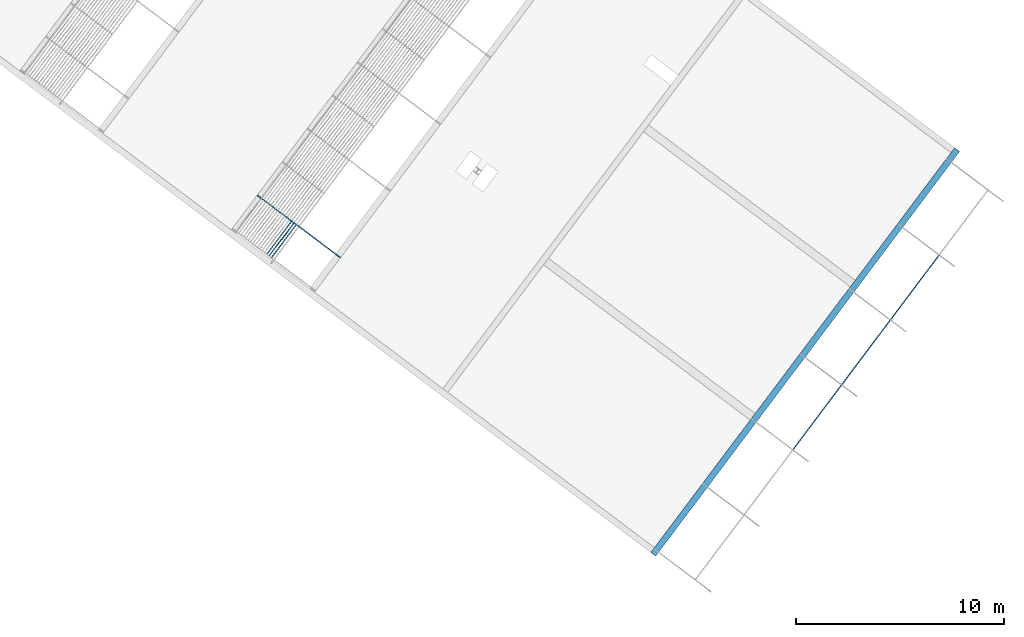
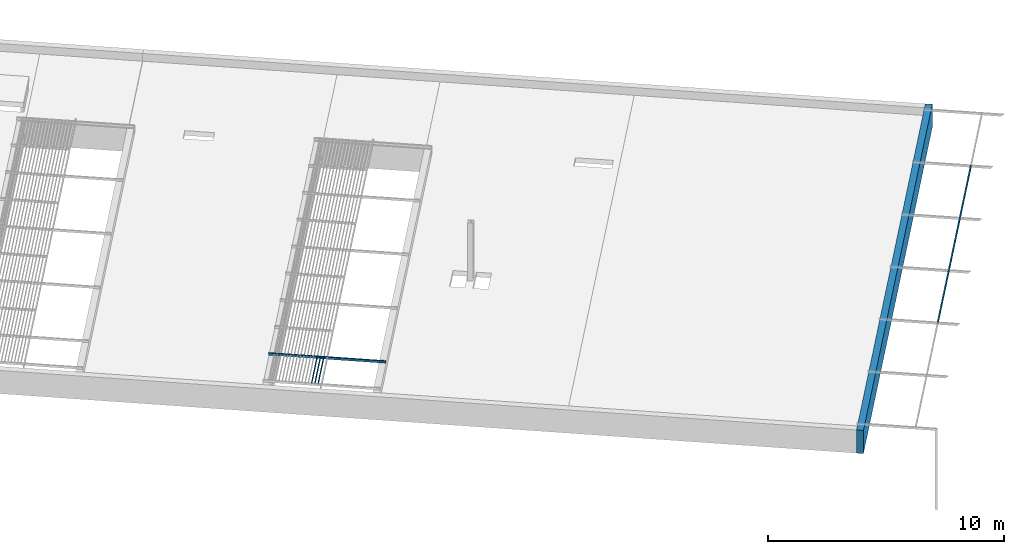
# One storey, part 17 of 95: 8 beams.
"""IFC2X3 building model written with IfcOpenShell, lengths in metres."""

import ifcopenshell
import ifcopenshell.guid

model = None  # the IFC model being written
_history = None  # IfcOwnerHistory: only IFC2X3 demands one
_inside = {}  # id of a spatial element -> (the spatial element, [elements in it])
_under = {}  # id of a project, library or spatial element -> (it, [spatial elements below it])
_declared = {}  # id of a project -> (the project, [libraries it declares])
_typed = {}  # id of a type object -> (the type object, [elements of that type])
_made_of = {}  # id of a material, layer set ... -> (it, [elements and type objects made of it])


def new_model(schema):
    """Start an empty IFC model of exactly this schema.

    Asked for "IFC4X3", IfcOpenShell would pick the latest addendum, in which some entities
    have other attributes; the version numbers below select the first issue.
    IFC2X3 requires an IfcOwnerHistory on every rooted entity: one is made here for all.
    """
    global model, _history
    if schema == "IFC4X3":
        model = ifcopenshell.file(schema_version=(4, 3, 0, 0))
    else:
        model = ifcopenshell.file(schema=schema)
    _inside.clear()
    _under.clear()
    _declared.clear()
    _typed.clear()
    _made_of.clear()
    _history = None
    if model.schema == "IFC2X3":
        org = make("IfcOrganization", Name="unknown")
        user = make(
            "IfcPersonAndOrganization",
            ThePerson=make("IfcPerson", FamilyName="unknown"),
            TheOrganization=org,
        )
        app = make(
            "IfcApplication",
            ApplicationDeveloper=org,
            Version="unknown",
            ApplicationFullName="unknown",
            ApplicationIdentifier="unknown",
        )
        _history = make(
            "IfcOwnerHistory",
            OwningUser=user,
            OwningApplication=app,
            ChangeAction="ADDED",
            CreationDate=0,
        )
    return model


def make(cls, **values):
    """One entity of the class cls with the attributes given. An attribute that is None is left unset."""
    return model.create_entity(
        cls, **{name: value for name, value in values.items() if value is not None}
    )


def entity(cls, *values):
    """Any entity or typed value of the class cls, its attributes in the order of the schema. None: left unset."""
    e = model.create_entity(cls)
    for i, value in enumerate(values):
        if value is not None:
            e[i] = value
    return e


def rooted(cls, **values):
    """An entity with a GlobalId (a new one), such as an element, a storey or a relation."""
    return make(cls, GlobalId=ifcopenshell.guid.new(), OwnerHistory=_history, **values)


def si_unit(unit_type, name, prefix=None):
    """IfcSIUnit, for example si_unit("LENGTHUNIT", "METRE", prefix="MILLI")."""
    return make("IfcSIUnit", UnitType=unit_type, Prefix=prefix, Name=name)


def converted_unit(unit_type, name, factor, base, dimensions=None, offset=None):
    """IfcConversionBasedUnit, such as the inch: factor (a typed value) times the base unit."""
    return make(
        "IfcConversionBasedUnit"
        if offset is None
        else "IfcConversionBasedUnitWithOffset",
        ConversionOffset=offset,
        Dimensions=None
        if dimensions is None
        else entity("IfcDimensionalExponents", *dimensions),
        UnitType=unit_type,
        Name=name,
        ConversionFactor=make(
            "IfcMeasureWithUnit", ValueComponent=factor, UnitComponent=base
        ),
    )


def derived_unit(unit_type, elements):
    """IfcDerivedUnit: a product of units, each with its exponent."""
    return make(
        "IfcDerivedUnit",
        Elements=[
            make("IfcDerivedUnitElement", Unit=unit, Exponent=power)
            for unit, power in elements
        ],
        UnitType=unit_type,
    )


def assignment(units):
    """IfcUnitAssignment: the units of a project."""
    return None if units is None else make("IfcUnitAssignment", Units=units)


def point(xyz):
    """IfcCartesianPoint."""
    return None if xyz is None else make("IfcCartesianPoint", Coordinates=xyz)


def direction(xyz):
    """IfcDirection."""
    return None if xyz is None else make("IfcDirection", DirectionRatios=xyz)


def frame(location, z_axis=None, x_axis=None):
    """IfcAxis2Placement3D, a coordinate frame: its origin and axes. An axis left out is left unset."""
    return make(
        "IfcAxis2Placement3D",
        Location=point(location),
        Axis=direction(z_axis),
        RefDirection=direction(x_axis),
    )


def frame_2d(location, x_axis=None):
    """IfcAxis2Placement2D, a coordinate frame in the plane: its origin and x axis."""
    return make(
        "IfcAxis2Placement2D", Location=point(location), RefDirection=direction(x_axis)
    )


def origin():
    """The frame at (0, 0, 0) with its axes left unset."""
    return frame((0.0, 0.0, 0.0))


def origin_2d_with_axis():
    """The frame at (0, 0) in the plane with the x axis (1, 0) written out."""
    return frame_2d((0.0, 0.0), x_axis=(1.0, 0.0))


def place(relative_to, where):
    """IfcLocalPlacement: puts the frame where relative to a parent placement (None: the world)."""
    return make(
        "IfcLocalPlacement", PlacementRelTo=relative_to, RelativePlacement=where
    )


def context(
    kind, dimensions, precision=None, world=None, true_north=None, identifier=None
):
    """IfcGeometricRepresentationContext, for example the 3D "Model" context."""
    return make(
        "IfcGeometricRepresentationContext",
        ContextIdentifier=identifier,
        ContextType=kind,
        CoordinateSpaceDimension=dimensions,
        Precision=precision,
        WorldCoordinateSystem=world,
        TrueNorth=true_north,
    )


def subcontext(parent, identifier, kind, view, scale=None):
    """IfcGeometricRepresentationSubContext, for example "Body" below "Model"."""
    return make(
        "IfcGeometricRepresentationSubContext",
        ContextIdentifier=identifier,
        ContextType=kind,
        ParentContext=parent,
        TargetScale=scale,
        TargetView=view,
    )


def project(units=None, contexts=None):
    """IfcProject with its units and contexts."""
    return rooted(
        "IfcProject",
        Name="project",
        RepresentationContexts=contexts,
        UnitsInContext=assignment(units),
    )


def spatial(cls, under=None, at=None, **own):
    """A site, building, storey or space (cls), placed at a placement, below another one or the project."""
    s = rooted(cls, ObjectPlacement=at, **own)
    if under is not None:
        _under.setdefault(under.id(), (under, []))[1].append(s)
    return s


def polyline(points):
    """IfcPolyline through the points."""
    return make("IfcPolyline", Points=[point(p) for p in points])


def circle_curve(where, radius):
    """IfcCircle in the frame where."""
    return make("IfcCircle", Position=where, Radius=radius)


def parameter(value):
    """IfcParameterValue: where a trimmed curve begins or ends, as a parameter of its basis curve."""
    return model.create_entity("IfcParameterValue", value)


def trimmed(basis, trim1, trim2, sense, master):
    """IfcTrimmedCurve: the piece of a basis curve between two trims."""
    return make(
        "IfcTrimmedCurve",
        BasisCurve=basis,
        Trim1=trim1,
        Trim2=trim2,
        SenseAgreement=sense,
        MasterRepresentation=master,
    )


def segment(curve, same_sense, transition):
    """IfcCompositeCurveSegment."""
    return make(
        "IfcCompositeCurveSegment",
        Transition=transition,
        SameSense=same_sense,
        ParentCurve=curve,
    )


def composite_curve(segments, self_intersect=None):
    """IfcCompositeCurve: segments joined end to end."""
    return make("IfcCompositeCurve", Segments=segments, SelfIntersect=self_intersect)


def profile(cls, at=None, kind="AREA", **sizes):
    """A parametric profile (cls). Its sizes go by their IFC names, for example OverallWidth=200.0."""
    return make(cls, ProfileType=kind, Position=at, **sizes)


def rectangle(**sizes):
    """IfcRectangleProfileDef."""
    return profile("IfcRectangleProfileDef", **sizes)


def outline(outer, holes=None, kind="AREA"):
    """IfcArbitraryClosedProfileDef: a profile drawn as a closed curve; with holes, ...WithVoids."""
    if holes is None:
        return make("IfcArbitraryClosedProfileDef", ProfileType=kind, OuterCurve=outer)
    return make(
        "IfcArbitraryProfileDefWithVoids",
        ProfileType=kind,
        OuterCurve=outer,
        InnerCurves=holes,
    )


def extrude(swept, where, along, depth):
    """IfcExtrudedAreaSolid: the profile swept, set in the frame where, extruded along a direction by depth."""
    return make(
        "IfcExtrudedAreaSolid",
        SweptArea=swept,
        Position=where,
        ExtrudedDirection=direction(along),
        Depth=depth,
    )


def shape(context_of_items, identifier, shape_type, items):
    """IfcShapeRepresentation: the items that make up one representation, for example the "Body"."""
    return make(
        "IfcShapeRepresentation",
        ContextOfItems=context_of_items,
        RepresentationIdentifier=identifier,
        RepresentationType=shape_type,
        Items=items,
    )


def material(Name=None, Category=None):
    """IfcMaterial."""
    return make("IfcMaterial", Name=Name, Category=Category)


def made_of(thing, what):
    """Note that an element or type object is made of a material, layer set ...; save() writes the relation."""
    if what is not None:
        _made_of.setdefault(what.id(), (what, []))[1].append(thing)
    return thing


def type_object(cls, material=None, **own):
    """A type object (cls), such as IfcWallType, which elements share."""
    return made_of(rooted(cls, **own), material)


def element(
    cls,
    number,
    at=None,
    inside=None,
    cuts=None,
    type_object=None,
    material=None,
    context=None,
    identifier="Body",
    shape_type=None,
    held_by="IfcProductDefinitionShape",
    body=None,
    shapes=None,
    **own,
):
    """One element of the class cls, such as IfcWall. Its Tag is "e" and its number.

    at: its placement. inside: the storey or other place that contains it. cuts: it is an
    opening in that element (IfcRelVoidsElement). A single representation is given by context,
    identifier, shape_type and body (its items); several are given by shapes. held_by: the class
    of the entity that holds the representations. save() writes the other relations.
    """
    e = rooted(cls, Tag="e%d" % number, ObjectPlacement=at, **own)
    if body is not None:
        shapes = [shape(context, identifier, shape_type, body)]
    if shapes is not None:
        e.Representation = make(held_by, Representations=shapes)
    if inside is not None:
        _inside.setdefault(inside.id(), (inside, []))[1].append(e)
    if cuts is not None:
        rooted(
            "IfcRelVoidsElement", RelatingBuildingElement=cuts, RelatedOpeningElement=e
        )
    if type_object is not None:
        _typed.setdefault(type_object.id(), (type_object, []))[1].append(e)
    return made_of(e, material)


def aggregate(whole, parts):
    """IfcRelAggregates: a whole, such as a stair, and the parts it consists of."""
    return rooted("IfcRelAggregates", RelatingObject=whole, RelatedObjects=parts)


def save(model, path):
    """Write the relations noted so far, then the file.

    IfcRelAggregates (storeys below a building ...), IfcRelContainedInSpatialStructure (elements
    in a storey), IfcRelDefinesByType, IfcRelAssociatesMaterial and IfcRelDeclares: one each for
    every whole, place, type object, material and project.
    """
    for whole, parts in _under.values():
        aggregate(whole, parts)
    for where, things in _inside.values():
        rooted(
            "IfcRelContainedInSpatialStructure",
            RelatedElements=things,
            RelatingStructure=where,
        )
    for kind, things in _typed.values():
        rooted("IfcRelDefinesByType", RelatedObjects=things, RelatingType=kind)
    for what, things in _made_of.values():
        rooted("IfcRelAssociatesMaterial", RelatedObjects=things, RelatingMaterial=what)
    for by, libraries in _declared.values():
        rooted("IfcRelDeclares", RelatingContext=by, RelatedDefinitions=libraries)
    model.write(path)


model = new_model("IFC2X3")

# Units and contexts
model_context = context("Model", 3, precision=1e-05, world=origin(), true_north=direction((6.123031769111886e-17, 1.0)))
body_context = subcontext(model_context, "Body", "Model", "MODEL_VIEW")
ifc_project = project(units=[si_unit("LENGTHUNIT", "METRE"), si_unit("AREAUNIT", "SQUARE_METRE"), si_unit("VOLUMEUNIT", "CUBIC_METRE"), converted_unit("PLANEANGLEUNIT", "DEGREE", entity("IfcRatioMeasure", 0.017453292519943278), si_unit("PLANEANGLEUNIT", "RADIAN"), dimensions=[0, 0, 0, 0, 0, 0, 0]), si_unit("MASSUNIT", "GRAM", prefix="KILO"), derived_unit("MASSDENSITYUNIT", [(si_unit("MASSUNIT", "GRAM", prefix="KILO"), 1), (si_unit("LENGTHUNIT", "METRE"), -3)]), derived_unit("IONCONCENTRATIONUNIT", [(si_unit("MASSUNIT", "GRAM", prefix="KILO"), 1), (si_unit("LENGTHUNIT", "METRE"), -3)]), derived_unit("MOMENTOFINERTIAUNIT", [(si_unit("LENGTHUNIT", "METRE"), 4)]), si_unit("TIMEUNIT", "SECOND"), si_unit("FREQUENCYUNIT", "HERTZ"), si_unit("THERMODYNAMICTEMPERATUREUNIT", "DEGREE_CELSIUS"), derived_unit("THERMALTRANSMITTANCEUNIT", [(si_unit("MASSUNIT", "GRAM", prefix="KILO"), 1), (si_unit("THERMODYNAMICTEMPERATUREUNIT", "KELVIN"), -1), (si_unit("TIMEUNIT", "SECOND"), -3)]), derived_unit("THERMALCONDUCTANCEUNIT", [(si_unit("MASSUNIT", "GRAM", prefix="KILO"), 1), (si_unit("THERMODYNAMICTEMPERATUREUNIT", "KELVIN"), -1), (si_unit("TIMEUNIT", "SECOND"), -3), (si_unit("LENGTHUNIT", "METRE"), 1)]), derived_unit("VOLUMETRICFLOWRATEUNIT", [(si_unit("LENGTHUNIT", "METRE"), 3), (si_unit("TIMEUNIT", "SECOND"), -1)]), derived_unit("MASSFLOWRATEUNIT", [(si_unit("MASSUNIT", "GRAM", prefix="KILO"), 1), (si_unit("TIMEUNIT", "SECOND"), -1)]), derived_unit("ROTATIONALFREQUENCYUNIT", [(si_unit("TIMEUNIT", "SECOND"), -1)]), si_unit("ELECTRICCURRENTUNIT", "AMPERE"), si_unit("ELECTRICVOLTAGEUNIT", "VOLT"), si_unit("POWERUNIT", "WATT"), si_unit("FORCEUNIT", "NEWTON", prefix="KILO"), si_unit("ILLUMINANCEUNIT", "LUX"), si_unit("LUMINOUSFLUXUNIT", "LUMEN"), si_unit("LUMINOUSINTENSITYUNIT", "CANDELA"), derived_unit("USERDEFINED", [(si_unit("MASSUNIT", "GRAM", prefix="KILO"), -1), (si_unit("LENGTHUNIT", "METRE"), -2), (si_unit("TIMEUNIT", "SECOND"), 3), (si_unit("LUMINOUSFLUXUNIT", "LUMEN"), 1)]), derived_unit("USERDEFINED", [(si_unit("MASSUNIT", "GRAM", prefix="KILO"), 1), (si_unit("TIMEUNIT", "SECOND"), -3), (si_unit("LENGTHUNIT", "METRE"), 3), (si_unit("ELECTRICCURRENTUNIT", "AMPERE"), -2)]), derived_unit("SOUNDPOWERUNIT", [(si_unit("MASSUNIT", "GRAM", prefix="KILO"), 1), (si_unit("TIMEUNIT", "SECOND"), -3), (si_unit("LENGTHUNIT", "METRE"), 2)]), derived_unit("SOUNDPRESSUREUNIT", [(si_unit("MASSUNIT", "GRAM", prefix="KILO"), 1), (si_unit("LENGTHUNIT", "METRE"), -1), (si_unit("TIMEUNIT", "SECOND"), -2)]), derived_unit("LINEARVELOCITYUNIT", [(si_unit("LENGTHUNIT", "METRE"), 1), (si_unit("TIMEUNIT", "SECOND"), -1)]), si_unit("PRESSUREUNIT", "PASCAL"), derived_unit("USERDEFINED", [(si_unit("MASSUNIT", "GRAM", prefix="KILO"), 1), (si_unit("LENGTHUNIT", "METRE"), -2), (si_unit("TIMEUNIT", "SECOND"), -2)]), derived_unit("LINEARFORCEUNIT", [(si_unit("MASSUNIT", "GRAM", prefix="KILO"), 1), (si_unit("TIMEUNIT", "SECOND"), -2)]), derived_unit("PLANARFORCEUNIT", [(si_unit("MASSUNIT", "GRAM", prefix="KILO"), 1), (si_unit("LENGTHUNIT", "METRE"), -1), (si_unit("TIMEUNIT", "SECOND"), -2)]), derived_unit("SPECIFICHEATCAPACITYUNIT", [(si_unit("THERMODYNAMICTEMPERATUREUNIT", "KELVIN"), -1), (si_unit("LENGTHUNIT", "METRE"), 2), (si_unit("TIMEUNIT", "SECOND"), -2)]), derived_unit("HEATINGVALUEUNIT", [(si_unit("LENGTHUNIT", "METRE"), 2), (si_unit("TIMEUNIT", "SECOND"), -2)]), derived_unit("VAPORPERMEABILITYUNIT", [(si_unit("LENGTHUNIT", "METRE"), -1), (si_unit("TIMEUNIT", "SECOND"), 1)]), derived_unit("DYNAMICVISCOSITYUNIT", [(si_unit("MASSUNIT", "GRAM", prefix="KILO"), 1), (si_unit("TIMEUNIT", "SECOND"), -1), (si_unit("LENGTHUNIT", "METRE"), -1)]), derived_unit("THERMALEXPANSIONCOEFFICIENTUNIT", [(si_unit("THERMODYNAMICTEMPERATUREUNIT", "KELVIN"), -1)]), derived_unit("MODULUSOFELASTICITYUNIT", [(si_unit("MASSUNIT", "GRAM", prefix="KILO"), 1), (si_unit("LENGTHUNIT", "METRE"), -1), (si_unit("TIMEUNIT", "SECOND"), -2)]), derived_unit("ISOTHERMALMOISTURECAPACITYUNIT", [(si_unit("LENGTHUNIT", "METRE"), 3), (si_unit("MASSUNIT", "GRAM", prefix="KILO"), -1)]), derived_unit("MOISTUREDIFFUSIVITYUNIT", [(si_unit("TIMEUNIT", "SECOND"), -1), (si_unit("LENGTHUNIT", "METRE"), 2)])], contexts=[model_context])

# Site, building, storey
site_placement = place(None, origin())
site = spatial("IfcSite", under=ifc_project, at=site_placement, Name="Default", CompositionType="ELEMENT")
building_placement = place(site_placement, frame((0.0, 0.0, 235.0), z_axis=(0.0, 0.0, 1.0), x_axis=(-0.7996477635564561, 0.6004693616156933, 0.0)))
building = spatial("IfcBuilding", under=site, at=building_placement, CompositionType="ELEMENT")
storey_placement = place(building_placement, frame((0.0, 0.0, 3.400000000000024)))
storey = spatial("IfcBuildingStorey", under=building, at=storey_placement, Name="PC- Coberta STR", CompositionType="ELEMENT", Elevation=3.400000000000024)

# Beams
ifc_material_1 = material(Name="_Formigó- T1- STR")
beam_type_1 = type_object("IfcBeamType", Name="STR- V- Formigó- Rectangular- T1:30x120 cm", PredefinedType="NOTDEFINED")
beam_1_placement = place(storey_placement, frame((3.09514768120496, -42.187491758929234, 0.4), z_axis=(0.0, 0.0, 1.0), x_axis=(0.0, 1.0, 0.0)))
element("IfcBeam", 1, at=beam_1_placement, inside=storey, type_object=beam_type_1, material=ifc_material_1, Name="STR- V- Formigó- Rectangular- T1:30x120 cm", ObjectType="STR- V- Formigó- Rectangular- T1:30x120 cm", context=body_context, shape_type="SweptSolid", body=[
    extrude(rectangle(XDim=1.199999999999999, YDim=0.30000000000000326, at=origin_2d_with_axis()), frame((-0.15269999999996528, 0.0, -0.6000000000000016), z_axis=(1.0, 0.0, 0.0), x_axis=(0.0, 0.0, -1.0)), (0.0, 0.0, 1.0), 24.29999999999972),
])
ifc_material_2 = material(Name="_Acer- STR")
beam_type_2 = type_object("IfcBeamType", Name="STR- V- Acer- RHS- Rectangular- T1:120x60RHS", PredefinedType="NOTDEFINED")
beam_2_placement = place(storey_placement, frame((0.7163088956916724, -29.94701323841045, 0.49840472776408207), z_axis=(0.0, 0.0, 1.0), x_axis=(0.0, -1.0, 0.0)))
element("IfcBeam", 2, at=beam_2_placement, inside=storey, type_object=beam_type_2, material=ifc_material_2, Name="STR- V- Acer- RHS- Rectangular- T1:120x60RHS", ObjectType="STR- V- Acer- RHS- Rectangular- T1:120x60RHS", context=body_context, shape_type="SweptSolid", body=[
    extrude(outline(composite_curve([segment(trimmed(circle_curve(frame_2d((-0.022000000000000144, -0.05200000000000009), x_axis=(1.0, 0.0)), 0.008), [parameter(180.0000000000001)], [parameter(269.99999999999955)], True, "PARAMETER"), True, "CONTINUOUS"), segment(polyline([(-0.022000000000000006, -0.0599999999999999), (0.02200000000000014, -0.0599999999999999)]), True, "CONTINUOUS"), segment(trimmed(circle_curve(frame_2d((0.022000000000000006, -0.05200000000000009), x_axis=(1.0, 0.0)), 0.008), [parameter(269.99999999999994)], [parameter(5.088887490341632e-14)], True, "PARAMETER"), True, "CONTINUOUS"), segment(polyline([(0.030000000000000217, -0.05200000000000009), (0.030000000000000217, 0.05200000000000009)]), True, "CONTINUOUS"), segment(trimmed(circle_curve(frame_2d((0.022000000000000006, 0.05200000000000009), x_axis=(1.0, 0.0)), 0.008), [parameter(359.99999999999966)], [parameter(89.99999999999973)], True, "PARAMETER"), True, "CONTINUOUS"), segment(polyline([(0.02200000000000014, 0.059999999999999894), (-0.022000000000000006, 0.059999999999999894)]), True, "CONTINUOUS"), segment(trimmed(circle_curve(frame_2d((-0.022000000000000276, 0.05200000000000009), x_axis=(1.0, 0.0)), 0.008), [parameter(90.00000000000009)], [parameter(180.00000000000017)], True, "PARAMETER"), True, "CONTINUOUS"), segment(polyline([(-0.030000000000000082, 0.05200000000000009), (-0.030000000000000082, -0.05200000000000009)]), True, "CONTINUOUS")], self_intersect=False), holes=[composite_curve([segment(polyline([(0.022000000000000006, -0.05600000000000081), (-0.021999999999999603, -0.05600000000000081)]), True, "CONTINUOUS"), segment(trimmed(circle_curve(frame_2d((-0.021999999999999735, -0.05200000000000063), x_axis=(1.0, 0.0)), 0.004), [parameter(179.99999999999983)], [parameter(269.9999999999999)], True, "PARAMETER"), False, "CONTINUOUS"), segment(polyline([(-0.02599999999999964, -0.05200000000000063), (-0.02599999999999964, 0.051999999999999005)]), True, "CONTINUOUS"), segment(trimmed(circle_curve(frame_2d((-0.021999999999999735, 0.051999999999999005), x_axis=(1.0, 0.0)), 0.004), [parameter(90.00000000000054)], [parameter(180.00000000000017)], True, "PARAMETER"), False, "CONTINUOUS"), segment(polyline([(-0.021999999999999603, 0.055999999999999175), (0.022000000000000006, 0.055999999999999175)]), True, "CONTINUOUS"), segment(trimmed(circle_curve(frame_2d((0.021999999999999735, 0.051999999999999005), x_axis=(1.0, 0.0)), 0.004), [parameter(0.0)], [parameter(90.00000000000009)], True, "PARAMETER"), False, "CONTINUOUS"), segment(polyline([(0.02599999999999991, 0.051999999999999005), (0.02599999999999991, -0.05200000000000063)]), True, "CONTINUOUS"), segment(trimmed(circle_curve(frame_2d((0.021999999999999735, -0.05200000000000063), x_axis=(1.0, 0.0)), 0.004), [parameter(270.00000000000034)], [parameter(3.5622212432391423e-13)], True, "PARAMETER"), False, "CONTINUOUS")], self_intersect=False)]), frame((-3.8401221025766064, 0.03159527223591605, 0.06159527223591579), z_axis=(1.0, 0.0, 0.0), x_axis=(0.0, -1.0, 0.0)), (0.0, 0.0, 1.0), 3.8401221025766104),
])
beam_3_placement = place(storey_placement, frame((0.7163088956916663, -33.847013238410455, 0.49840472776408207), z_axis=(0.0, 0.0, 1.0), x_axis=(0.0, -1.0, 0.0)))
element("IfcBeam", 3, at=beam_3_placement, inside=storey, type_object=beam_type_2, material=ifc_material_2, Name="STR- V- Acer- RHS- Rectangular- T1:120x60RHS", ObjectType="STR- V- Acer- RHS- Rectangular- T1:120x60RHS", context=body_context, shape_type="SweptSolid", body=[
    extrude(outline(composite_curve([segment(trimmed(circle_curve(frame_2d((-0.022000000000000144, -0.05200000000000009), x_axis=(1.0, 0.0)), 0.008), [parameter(180.0000000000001)], [parameter(269.99999999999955)], True, "PARAMETER"), True, "CONTINUOUS"), segment(polyline([(-0.022000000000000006, -0.0599999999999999), (0.022000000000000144, -0.0599999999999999)]), True, "CONTINUOUS"), segment(trimmed(circle_curve(frame_2d((0.02200000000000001, -0.05200000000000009), x_axis=(1.0, 0.0)), 0.008), [parameter(269.99999999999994)], [parameter(5.088887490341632e-14)], True, "PARAMETER"), True, "CONTINUOUS"), segment(polyline([(0.03000000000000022, -0.05200000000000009), (0.03000000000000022, 0.05200000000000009)]), True, "CONTINUOUS"), segment(trimmed(circle_curve(frame_2d((0.02200000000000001, 0.05200000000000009), x_axis=(1.0, 0.0)), 0.008), [parameter(359.99999999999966)], [parameter(89.99999999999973)], True, "PARAMETER"), True, "CONTINUOUS"), segment(polyline([(0.022000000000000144, 0.059999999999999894), (-0.022000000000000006, 0.059999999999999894)]), True, "CONTINUOUS"), segment(trimmed(circle_curve(frame_2d((-0.022000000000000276, 0.05200000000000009), x_axis=(1.0, 0.0)), 0.008), [parameter(90.00000000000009)], [parameter(180.00000000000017)], True, "PARAMETER"), True, "CONTINUOUS"), segment(polyline([(-0.030000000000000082, 0.05200000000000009), (-0.030000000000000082, -0.05200000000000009)]), True, "CONTINUOUS")], self_intersect=False), holes=[composite_curve([segment(polyline([(0.02200000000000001, -0.05600000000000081), (-0.021999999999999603, -0.05600000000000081)]), True, "CONTINUOUS"), segment(trimmed(circle_curve(frame_2d((-0.021999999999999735, -0.05200000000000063), x_axis=(1.0, 0.0)), 0.004), [parameter(179.99999999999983)], [parameter(269.9999999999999)], True, "PARAMETER"), False, "CONTINUOUS"), segment(polyline([(-0.02599999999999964, -0.05200000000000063), (-0.02599999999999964, 0.051999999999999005)]), True, "CONTINUOUS"), segment(trimmed(circle_curve(frame_2d((-0.021999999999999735, 0.051999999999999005), x_axis=(1.0, 0.0)), 0.004), [parameter(90.00000000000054)], [parameter(180.00000000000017)], True, "PARAMETER"), False, "CONTINUOUS"), segment(polyline([(-0.021999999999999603, 0.055999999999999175), (0.02200000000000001, 0.055999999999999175)]), True, "CONTINUOUS"), segment(trimmed(circle_curve(frame_2d((0.02199999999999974, 0.051999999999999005), x_axis=(1.0, 0.0)), 0.004), [parameter(0.0)], [parameter(90.00000000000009)], True, "PARAMETER"), False, "CONTINUOUS"), segment(polyline([(0.025999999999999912, 0.051999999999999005), (0.025999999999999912, -0.05200000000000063)]), True, "CONTINUOUS"), segment(trimmed(circle_curve(frame_2d((0.02199999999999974, -0.05200000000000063), x_axis=(1.0, 0.0)), 0.004), [parameter(270.00000000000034)], [parameter(3.5622212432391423e-13)], True, "PARAMETER"), False, "CONTINUOUS")], self_intersect=False)]), frame((-3.840122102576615, 0.03159527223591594, 0.06159527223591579), z_axis=(1.0, 0.0, 0.0), x_axis=(0.0, -1.0, 0.0)), (0.0, 0.0, 1.0), 3.8401221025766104),
])
beam_4_placement = place(storey_placement, frame((0.7163088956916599, -37.74701323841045, 0.49840472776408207), z_axis=(0.0, 0.0, 1.0), x_axis=(0.0, -1.0, 0.0)))
element("IfcBeam", 4, at=beam_4_placement, inside=storey, type_object=beam_type_2, material=ifc_material_2, Name="STR- V- Acer- RHS- Rectangular- T1:120x60RHS", ObjectType="STR- V- Acer- RHS- Rectangular- T1:120x60RHS", context=body_context, shape_type="SweptSolid", body=[
    extrude(outline(composite_curve([segment(trimmed(circle_curve(frame_2d((-0.022000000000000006, -0.05200000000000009), x_axis=(1.0, 0.0)), 0.008), [parameter(180.0000000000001)], [parameter(269.99999999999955)], True, "PARAMETER"), True, "CONTINUOUS"), segment(polyline([(-0.021999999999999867, -0.0599999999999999), (0.022000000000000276, -0.0599999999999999)]), True, "CONTINUOUS"), segment(trimmed(circle_curve(frame_2d((0.022000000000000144, -0.05200000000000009), x_axis=(1.0, 0.0)), 0.008), [parameter(269.99999999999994)], [parameter(5.088887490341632e-14)], True, "PARAMETER"), True, "CONTINUOUS"), segment(polyline([(0.03000000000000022, -0.05200000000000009), (0.03000000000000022, 0.05200000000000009)]), True, "CONTINUOUS"), segment(trimmed(circle_curve(frame_2d((0.022000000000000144, 0.05200000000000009), x_axis=(1.0, 0.0)), 0.008), [parameter(359.99999999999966)], [parameter(89.99999999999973)], True, "PARAMETER"), True, "CONTINUOUS"), segment(polyline([(0.022000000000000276, 0.059999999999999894), (-0.021999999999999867, 0.059999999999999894)]), True, "CONTINUOUS"), segment(trimmed(circle_curve(frame_2d((-0.022000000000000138, 0.05200000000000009), x_axis=(1.0, 0.0)), 0.008), [parameter(90.00000000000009)], [parameter(180.00000000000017)], True, "PARAMETER"), True, "CONTINUOUS"), segment(polyline([(-0.029999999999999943, 0.05200000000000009), (-0.029999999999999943, -0.05200000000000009)]), True, "CONTINUOUS")], self_intersect=False), holes=[composite_curve([segment(polyline([(0.022000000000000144, -0.05600000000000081), (-0.021999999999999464, -0.05600000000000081)]), True, "CONTINUOUS"), segment(trimmed(circle_curve(frame_2d((-0.021999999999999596, -0.05200000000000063), x_axis=(1.0, 0.0)), 0.004), [parameter(179.99999999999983)], [parameter(269.9999999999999)], True, "PARAMETER"), False, "CONTINUOUS"), segment(polyline([(-0.025999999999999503, -0.05200000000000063), (-0.025999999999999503, 0.051999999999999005)]), True, "CONTINUOUS"), segment(trimmed(circle_curve(frame_2d((-0.021999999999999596, 0.051999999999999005), x_axis=(1.0, 0.0)), 0.004), [parameter(90.00000000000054)], [parameter(180.00000000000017)], True, "PARAMETER"), False, "CONTINUOUS"), segment(polyline([(-0.021999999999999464, 0.055999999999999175), (0.022000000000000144, 0.055999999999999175)]), True, "CONTINUOUS"), segment(trimmed(circle_curve(frame_2d((0.021999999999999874, 0.051999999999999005), x_axis=(1.0, 0.0)), 0.004), [parameter(0.0)], [parameter(90.00000000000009)], True, "PARAMETER"), False, "CONTINUOUS"), segment(polyline([(0.026000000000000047, 0.051999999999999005), (0.026000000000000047, -0.05200000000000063)]), True, "CONTINUOUS"), segment(trimmed(circle_curve(frame_2d((0.021999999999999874, -0.05200000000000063), x_axis=(1.0, 0.0)), 0.004), [parameter(270.00000000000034)], [parameter(3.5622212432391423e-13)], True, "PARAMETER"), False, "CONTINUOUS")], self_intersect=False)]), frame((-3.8401221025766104, 0.03159527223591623, 0.06159527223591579), z_axis=(1.0, 0.0, 0.0), x_axis=(0.0, -1.0, 0.0)), (0.0, 0.0, 1.0), 3.8401221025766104),
])
beam_5_placement = place(storey_placement, frame((23.645147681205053, -20.446787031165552, 0.49840472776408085), z_axis=(0.0, 0.0, 1.0), x_axis=(-1.0, 0.0, 0.0)))
element("IfcBeam", 5, at=beam_5_placement, inside=storey, type_object=beam_type_2, material=ifc_material_2, Name="STR- V- Acer- RHS- Rectangular- T1:120x60RHS", ObjectType="STR- V- Acer- RHS- Rectangular- T1:120x60RHS", context=body_context, shape_type="SweptSolid", body=[
    extrude(outline(composite_curve([segment(trimmed(circle_curve(frame_2d((-0.021999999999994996, -0.05200000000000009), x_axis=(1.0, 0.0)), 0.008), [parameter(180.0000000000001)], [parameter(269.99999999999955)], True, "PARAMETER"), True, "CONTINUOUS"), segment(polyline([(-0.02199999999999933, -0.05999999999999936), (0.021999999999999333, -0.05999999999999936)]), True, "CONTINUOUS"), segment(trimmed(circle_curve(frame_2d((0.022000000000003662, -0.05200000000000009), x_axis=(1.0, 0.0)), 0.008), [parameter(269.99999999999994)], [parameter(5.088887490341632e-14)], True, "PARAMETER"), True, "CONTINUOUS"), segment(polyline([(0.030000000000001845, -0.05199999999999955), (0.030000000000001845, 0.05200000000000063)]), True, "CONTINUOUS"), segment(trimmed(circle_curve(frame_2d((0.022000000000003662, 0.05200000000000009), x_axis=(1.0, 0.0)), 0.008), [parameter(359.99999999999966)], [parameter(89.99999999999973)], True, "PARAMETER"), True, "CONTINUOUS"), segment(polyline([(0.021999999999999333, 0.060000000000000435), (-0.02199999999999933, 0.060000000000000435)]), True, "CONTINUOUS"), segment(trimmed(circle_curve(frame_2d((-0.021999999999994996, 0.05200000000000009), x_axis=(1.0, 0.0)), 0.008), [parameter(90.00000000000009)], [parameter(180.00000000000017)], True, "PARAMETER"), True, "CONTINUOUS"), segment(polyline([(-0.02999999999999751, 0.05200000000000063), (-0.02999999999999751, -0.05199999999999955)]), True, "CONTINUOUS")], self_intersect=False), holes=[composite_curve([segment(polyline([(0.021999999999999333, -0.05600000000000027), (-0.02199999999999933, -0.05600000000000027)]), True, "CONTINUOUS"), segment(trimmed(circle_curve(frame_2d((-0.021999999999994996, -0.05200000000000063), x_axis=(1.0, 0.0)), 0.004), [parameter(179.99999999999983)], [parameter(269.9999999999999)], True, "PARAMETER"), False, "CONTINUOUS"), segment(polyline([(-0.02599999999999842, -0.05200000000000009), (-0.02599999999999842, 0.05199999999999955)]), True, "CONTINUOUS"), segment(trimmed(circle_curve(frame_2d((-0.021999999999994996, 0.051999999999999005), x_axis=(1.0, 0.0)), 0.004), [parameter(90.00000000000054)], [parameter(180.00000000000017)], True, "PARAMETER"), False, "CONTINUOUS"), segment(polyline([(-0.02199999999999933, 0.05599999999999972), (0.021999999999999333, 0.05599999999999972)]), True, "CONTINUOUS"), segment(trimmed(circle_curve(frame_2d((0.022000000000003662, 0.051999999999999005), x_axis=(1.0, 0.0)), 0.004), [parameter(0.0)], [parameter(90.00000000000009)], True, "PARAMETER"), False, "CONTINUOUS"), segment(polyline([(0.02599999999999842, 0.05199999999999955), (0.02599999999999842, -0.05200000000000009)]), True, "CONTINUOUS"), segment(trimmed(circle_curve(frame_2d((0.022000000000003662, -0.05200000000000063), x_axis=(1.0, 0.0)), 0.004), [parameter(270.00000000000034)], [parameter(3.5622212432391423e-13)], True, "PARAMETER"), False, "CONTINUOUS")], self_intersect=False)]), frame((-5.0, -0.03159527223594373, 0.061595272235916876), z_axis=(1.0, 0.0, 0.0), x_axis=(0.0, -1.0, 0.0)), (0.0, 0.0, 1.0), 5.000000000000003),
])
beam_type_3 = type_object("IfcBeamType", Name="STR- V- Acer- RHS- Rectangular- T1:120x40RHS -", PredefinedType="NOTDEFINED")
beam_6_placement = place(storey_placement, frame((26.553552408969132, -20.385189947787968, 0.49840472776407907), z_axis=(0.0, 0.0, 1.0), x_axis=(0.0, -1.0, 0.0)))
element("IfcBeam", 6, at=beam_6_placement, inside=storey, type_object=beam_type_3, material=ifc_material_2, Name="STR- V- Acer- RHS- Rectangular- T1:120x40RHS -", ObjectType="STR- V- Acer- RHS- Rectangular- T1:120x40RHS -", context=body_context, shape_type="SweptSolid", body=[
    extrude(outline(composite_curve([segment(trimmed(circle_curve(frame_2d((-0.013999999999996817, -0.05400000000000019), x_axis=(1.0, 0.0)), 0.006), [parameter(180.0000000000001)], [parameter(269.99999999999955)], True, "PARAMETER"), True, "CONTINUOUS"), segment(polyline([(-0.014000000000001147, -0.06000000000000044), (0.01400000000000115, -0.06000000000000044)]), True, "CONTINUOUS"), segment(trimmed(circle_curve(frame_2d((0.01400000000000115, -0.05400000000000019), x_axis=(1.0, 0.0)), 0.006), [parameter(269.99999999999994)], [parameter(1.0177774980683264e-13)], True, "PARAMETER"), True, "CONTINUOUS"), segment(polyline([(0.019999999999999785, -0.05400000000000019), (0.019999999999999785, 0.05399999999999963)]), True, "CONTINUOUS"), segment(trimmed(circle_curve(frame_2d((0.01400000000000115, 0.05399999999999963), x_axis=(1.0, 0.0)), 0.006), [parameter(359.9999999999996)], [parameter(89.99999999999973)], True, "PARAMETER"), True, "CONTINUOUS"), segment(polyline([(0.01400000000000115, 0.05999999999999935), (-0.014000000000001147, 0.05999999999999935)]), True, "CONTINUOUS"), segment(trimmed(circle_curve(frame_2d((-0.013999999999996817, 0.05399999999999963), x_axis=(1.0, 0.0)), 0.006), [parameter(90.00000000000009)], [parameter(180.00000000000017)], True, "PARAMETER"), True, "CONTINUOUS"), segment(polyline([(-0.019999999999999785, 0.05399999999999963), (-0.019999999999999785, -0.05400000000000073)]), True, "CONTINUOUS")], self_intersect=False), holes=[composite_curve([segment(polyline([(0.01400000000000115, -0.05700000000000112), (-0.014000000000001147, -0.05700000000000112)]), True, "CONTINUOUS"), segment(trimmed(circle_curve(frame_2d((-0.013999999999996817, -0.05400000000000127), x_axis=(1.0, 0.0)), 0.003), [parameter(179.99999999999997)], [parameter(269.9999999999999)], True, "PARAMETER"), False, "CONTINUOUS"), segment(polyline([(-0.01700000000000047, -0.05400000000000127), (-0.01700000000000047, 0.05399999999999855)]), True, "CONTINUOUS"), segment(trimmed(circle_curve(frame_2d((-0.013999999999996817, 0.05399999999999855), x_axis=(1.0, 0.0)), 0.003), [parameter(90.00000000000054)], [parameter(180.0000000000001)], True, "PARAMETER"), False, "CONTINUOUS"), segment(polyline([(-0.014000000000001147, 0.05699999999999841), (0.01400000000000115, 0.05699999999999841)]), True, "CONTINUOUS"), segment(trimmed(circle_curve(frame_2d((0.01400000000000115, 0.05399999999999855), x_axis=(1.0, 0.0)), 0.003), [parameter(0.0)], [parameter(90.00000000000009)], True, "PARAMETER"), False, "CONTINUOUS"), segment(polyline([(0.017000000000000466, 0.05399999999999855), (0.017000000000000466, -0.05400000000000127)]), True, "CONTINUOUS"), segment(trimmed(circle_curve(frame_2d((0.01400000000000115, -0.05400000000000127), x_axis=(1.0, 0.0)), 0.003), [parameter(270.00000000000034)], [parameter(3.053332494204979e-13)], True, "PARAMETER"), False, "CONTINUOUS")], self_intersect=False)]), frame((-1.940000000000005, 0.021595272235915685, 0.06159527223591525), z_axis=(1.0, 0.0, 0.0), x_axis=(0.0, -1.0, 0.0)), (0.0, 0.0, 1.0), 1.9400000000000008),
])
beam_7_placement = place(storey_placement, frame((26.41355240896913, -20.385189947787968, 0.49840472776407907), z_axis=(0.0, 0.0, 1.0), x_axis=(0.0, -1.0, 0.0)))
element("IfcBeam", 7, at=beam_7_placement, inside=storey, type_object=beam_type_3, material=ifc_material_2, Name="STR- V- Acer- RHS- Rectangular- T1:120x40RHS -", ObjectType="STR- V- Acer- RHS- Rectangular- T1:120x40RHS -", context=body_context, shape_type="SweptSolid", body=[
    extrude(outline(composite_curve([segment(trimmed(circle_curve(frame_2d((-0.013999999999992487, -0.05400000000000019), x_axis=(1.0, 0.0)), 0.006), [parameter(180.0000000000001)], [parameter(269.99999999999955)], True, "PARAMETER"), True, "CONTINUOUS"), segment(polyline([(-0.013999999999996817, -0.06000000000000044), (0.01400000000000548, -0.06000000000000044)]), True, "CONTINUOUS"), segment(trimmed(circle_curve(frame_2d((0.01400000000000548, -0.05400000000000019), x_axis=(1.0, 0.0)), 0.006), [parameter(269.99999999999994)], [parameter(1.0177774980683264e-13)], True, "PARAMETER"), True, "CONTINUOUS"), segment(polyline([(0.020000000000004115, -0.05400000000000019), (0.020000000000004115, 0.05399999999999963)]), True, "CONTINUOUS"), segment(trimmed(circle_curve(frame_2d((0.01400000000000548, 0.05399999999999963), x_axis=(1.0, 0.0)), 0.006), [parameter(359.9999999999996)], [parameter(89.99999999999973)], True, "PARAMETER"), True, "CONTINUOUS"), segment(polyline([(0.01400000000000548, 0.05999999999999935), (-0.013999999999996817, 0.05999999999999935)]), True, "CONTINUOUS"), segment(trimmed(circle_curve(frame_2d((-0.013999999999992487, 0.05399999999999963), x_axis=(1.0, 0.0)), 0.006), [parameter(90.00000000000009)], [parameter(180.00000000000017)], True, "PARAMETER"), True, "CONTINUOUS"), segment(polyline([(-0.019999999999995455, 0.05399999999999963), (-0.019999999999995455, -0.05400000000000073)]), True, "CONTINUOUS")], self_intersect=False), holes=[composite_curve([segment(polyline([(0.01400000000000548, -0.05700000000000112), (-0.013999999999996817, -0.05700000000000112)]), True, "CONTINUOUS"), segment(trimmed(circle_curve(frame_2d((-0.013999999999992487, -0.05400000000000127), x_axis=(1.0, 0.0)), 0.003), [parameter(179.99999999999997)], [parameter(269.9999999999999)], True, "PARAMETER"), False, "CONTINUOUS"), segment(polyline([(-0.01699999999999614, -0.05400000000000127), (-0.01699999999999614, 0.05399999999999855)]), True, "CONTINUOUS"), segment(trimmed(circle_curve(frame_2d((-0.013999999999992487, 0.05399999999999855), x_axis=(1.0, 0.0)), 0.003), [parameter(90.00000000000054)], [parameter(180.0000000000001)], True, "PARAMETER"), False, "CONTINUOUS"), segment(polyline([(-0.013999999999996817, 0.05699999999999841), (0.01400000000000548, 0.05699999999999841)]), True, "CONTINUOUS"), segment(trimmed(circle_curve(frame_2d((0.01400000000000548, 0.05399999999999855), x_axis=(1.0, 0.0)), 0.003), [parameter(0.0)], [parameter(90.00000000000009)], True, "PARAMETER"), False, "CONTINUOUS"), segment(polyline([(0.017000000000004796, 0.05399999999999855), (0.017000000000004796, -0.05400000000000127)]), True, "CONTINUOUS"), segment(trimmed(circle_curve(frame_2d((0.01400000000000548, -0.05400000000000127), x_axis=(1.0, 0.0)), 0.003), [parameter(270.00000000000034)], [parameter(3.053332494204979e-13)], True, "PARAMETER"), False, "CONTINUOUS")], self_intersect=False)]), frame((-1.940000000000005, 0.021595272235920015, 0.06159527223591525), z_axis=(1.0, 0.0, 0.0), x_axis=(0.0, -1.0, 0.0)), (0.0, 0.0, 1.0), 1.9400000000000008),
])
beam_8_placement = place(storey_placement, frame((26.273552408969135, -20.385189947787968, 0.49840472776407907), z_axis=(0.0, 0.0, 1.0), x_axis=(0.0, -1.0, 0.0)))
element("IfcBeam", 8, at=beam_8_placement, inside=storey, type_object=beam_type_3, material=ifc_material_2, Name="STR- V- Acer- RHS- Rectangular- T1:120x40RHS -", ObjectType="STR- V- Acer- RHS- Rectangular- T1:120x40RHS -", context=body_context, shape_type="SweptSolid", body=[
    extrude(outline(composite_curve([segment(trimmed(circle_curve(frame_2d((-0.013999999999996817, -0.05400000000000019), x_axis=(1.0, 0.0)), 0.006), [parameter(180.0000000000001)], [parameter(269.99999999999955)], True, "PARAMETER"), True, "CONTINUOUS"), segment(polyline([(-0.014000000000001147, -0.06000000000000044), (0.01400000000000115, -0.06000000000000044)]), True, "CONTINUOUS"), segment(trimmed(circle_curve(frame_2d((0.01400000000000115, -0.05400000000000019), x_axis=(1.0, 0.0)), 0.006), [parameter(269.99999999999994)], [parameter(1.0177774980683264e-13)], True, "PARAMETER"), True, "CONTINUOUS"), segment(polyline([(0.019999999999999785, -0.05400000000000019), (0.019999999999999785, 0.05399999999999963)]), True, "CONTINUOUS"), segment(trimmed(circle_curve(frame_2d((0.01400000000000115, 0.05399999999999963), x_axis=(1.0, 0.0)), 0.006), [parameter(359.9999999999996)], [parameter(89.99999999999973)], True, "PARAMETER"), True, "CONTINUOUS"), segment(polyline([(0.01400000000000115, 0.05999999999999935), (-0.014000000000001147, 0.05999999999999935)]), True, "CONTINUOUS"), segment(trimmed(circle_curve(frame_2d((-0.013999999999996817, 0.05399999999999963), x_axis=(1.0, 0.0)), 0.006), [parameter(90.00000000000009)], [parameter(180.00000000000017)], True, "PARAMETER"), True, "CONTINUOUS"), segment(polyline([(-0.019999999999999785, 0.05399999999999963), (-0.019999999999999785, -0.05400000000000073)]), True, "CONTINUOUS")], self_intersect=False), holes=[composite_curve([segment(polyline([(0.01400000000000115, -0.05700000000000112), (-0.014000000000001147, -0.05700000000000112)]), True, "CONTINUOUS"), segment(trimmed(circle_curve(frame_2d((-0.013999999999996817, -0.05400000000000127), x_axis=(1.0, 0.0)), 0.003), [parameter(179.99999999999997)], [parameter(269.9999999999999)], True, "PARAMETER"), False, "CONTINUOUS"), segment(polyline([(-0.01700000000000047, -0.05400000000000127), (-0.01700000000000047, 0.05399999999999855)]), True, "CONTINUOUS"), segment(trimmed(circle_curve(frame_2d((-0.013999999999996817, 0.05399999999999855), x_axis=(1.0, 0.0)), 0.003), [parameter(90.00000000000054)], [parameter(180.0000000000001)], True, "PARAMETER"), False, "CONTINUOUS"), segment(polyline([(-0.014000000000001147, 0.05699999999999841), (0.01400000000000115, 0.05699999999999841)]), True, "CONTINUOUS"), segment(trimmed(circle_curve(frame_2d((0.01400000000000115, 0.05399999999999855), x_axis=(1.0, 0.0)), 0.003), [parameter(0.0)], [parameter(90.00000000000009)], True, "PARAMETER"), False, "CONTINUOUS"), segment(polyline([(0.017000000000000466, 0.05399999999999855), (0.017000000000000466, -0.05400000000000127)]), True, "CONTINUOUS"), segment(trimmed(circle_curve(frame_2d((0.01400000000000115, -0.05400000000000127), x_axis=(1.0, 0.0)), 0.003), [parameter(270.00000000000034)], [parameter(3.053332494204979e-13)], True, "PARAMETER"), False, "CONTINUOUS")], self_intersect=False)]), frame((-1.940000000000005, 0.021595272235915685, 0.06159527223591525), z_axis=(1.0, 0.0, 0.0), x_axis=(0.0, -1.0, 0.0)), (0.0, 0.0, 1.0), 1.9400000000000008),
])

save(model, "model.ifc")
